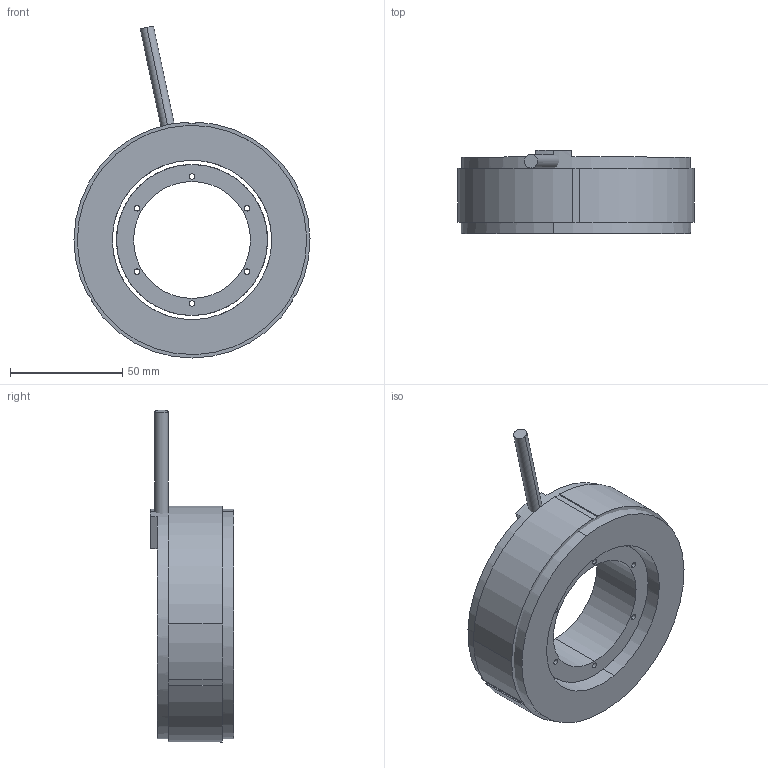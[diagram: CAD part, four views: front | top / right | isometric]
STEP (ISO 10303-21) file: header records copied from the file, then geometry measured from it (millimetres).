
FILE_DESCRIPTION (( 'STEP AP203' ), '1' );
FILE_NAME ('TMXSL105-34 KIT 3D.STEP', '2021-06-21T03:06:56', ( '' ), ( '' ), 'SwSTEP 2.0', 'SolidWorks 2021', '' );
FILE_SCHEMA (( 'CONFIG_CONTROL_DESIGN' ));
Length unit declared in the file: millimetre
Products named in the file (1): TMXSL105-34 KIT 3D
Bounding box: 104.99 x 37 x 147.69 mm (x, y, z)
Volume: 212342.2 mm3; surface area: 59979.8 mm2
Topology: 4 solids, 4 shells, 270 faces, 691 edges, 446 vertices
Faces by surface type: plane 208, cylinder 62
Entity records: 8306 total; most frequent: DIRECTION 1481, CARTESIAN_POINT 1408, ORIENTED_EDGE 1382, EDGE_CURVE 691, AXIS2_PLACEMENT_3D 519, VERTEX_POINT 446, VECTOR 443, LINE 443
